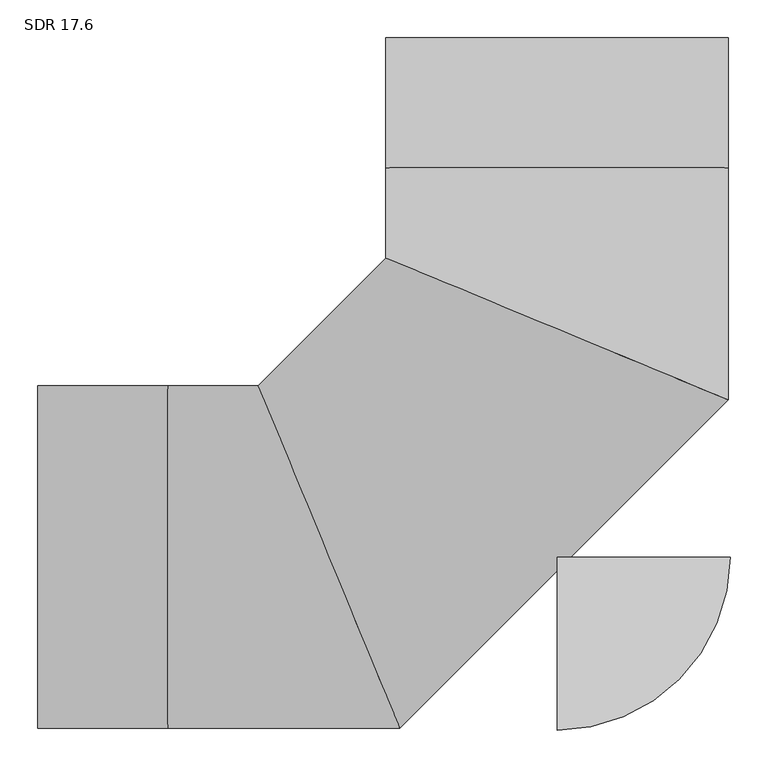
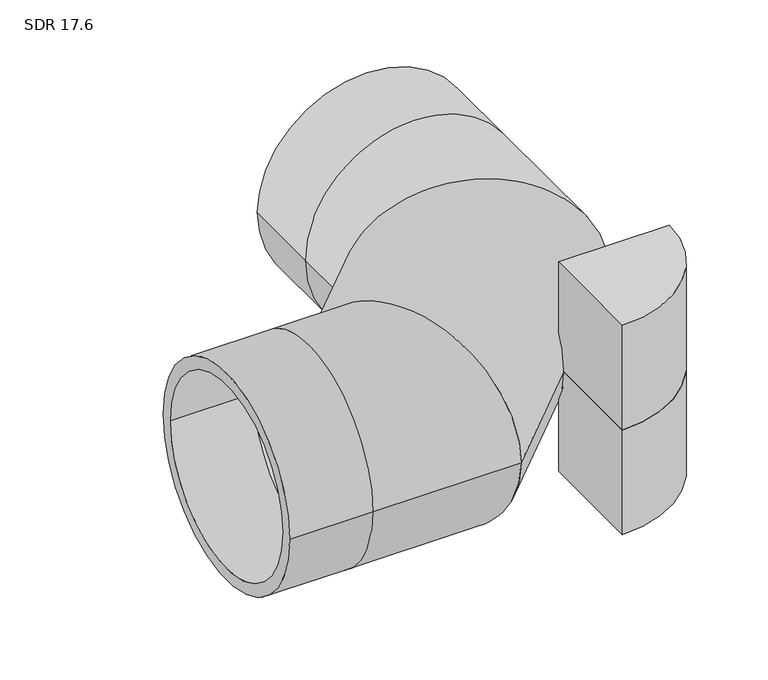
"""IFC4 building model written with IfcOpenShell, lengths in millimetres: pipe fitting geometry, Aquatherm - Elbow Blue BW Segmented : SDR 17.6."""

from ifc_helpers import new_model, si_unit, point, frame, origin, origin_with_axes, origin_2d, place, context, project, spatial, polyline, circle_curve, ellipse_curve, trimmed, segment, composite_curve, outline, extrude, source, transform, mapped, element, save
from ifc_brep_helpers import plane_surface, cylinder_surface, revolved_surface, advanced_brep


def sdr_17_6_db16add6(model_context):
    return source(origin(), model_context, "Body", "SolidModel", [
        extrude(outline(composite_curve([segment(polyline([(0.0, -228.6), (0.0, 0.0), (228.6, 0.0)]), True, "CONTINUOUS"), segment(trimmed(circle_curve(origin_2d(), 228.6), [point((228.6, 0.0))], [point((0.0, -228.6))], False, "CARTESIAN"), True, "CONTINUOUS")], self_intersect=False)), frame((0.0, 0.0, -228.6), z_axis=(0.0, 0.0, 1.0), x_axis=(1.0, 0.0, 0.0)), (0.0, 0.0, 1.0), 228.6),
        extrude(outline(composite_curve([segment(trimmed(circle_curve(origin_2d(), 228.6), [point((228.6, 0.0))], [point((0.0, -228.6))], False, "CARTESIAN"), True, "CONTINUOUS"), segment(polyline([(0.0, -228.6), (0.0, 0.0), (228.6, 0.0)]), True, "CONTINUOUS")], self_intersect=False)), origin_with_axes(), (0.0, 0.0, 1.0), 228.6),
        advanced_brep(
        [(-685.8, -226.06, 0.0), (-685.8, 226.06, 0.0), (-685.8, -200.373644, 0.0), (-685.8, 200.373644, 0.0), (226.06, 685.8, 0.0), (-226.06, 685.8, 0.0), (200.373644, 685.8, 0.0), (-200.373644, 685.8, 0.0), (-514.35, -226.06, 0.0), (-514.35, 226.06, 0.0), (-514.35, -200.373644, 0.0), (-514.35, 200.373644, 0.0), (-207.6621363, -226.06, 0.0), (-394.9363721, 226.06, 0.0), (-218.3017733, -200.373644, 0.0), (-384.2967351, 200.373644, 0.0), (226.06, 207.6621363, 0.0), (-226.06, 394.9363721, 0.0), (200.373644, 218.3017733, 0.0), (-200.373644, 384.2967351, 0.0), (-226.06, 514.35, 0.0), (226.06, 514.35, 0.0), (-200.373644, 514.35, 0.0), (200.373644, 514.35, 0.0)],
        [
            (0, 1, circle_curve(frame((-685.8, 0.0, 0.0), z_axis=(-1.0, 0.0, 0.0), x_axis=(0.0, 1.0, 0.0)), 226.06)),
            (1, 0, circle_curve(frame((-685.8, 0.0, 0.0), z_axis=(-1.0, 0.0, 0.0), x_axis=(0.0, 1.0, 0.0)), 226.06)),
            (2, 3, circle_curve(frame((-685.8, 0.0, 0.0), z_axis=(1.0, 0.0, 0.0), x_axis=(0.0, 1.0, 0.0)), 200.373644)),
            (3, 2, circle_curve(frame((-685.8, 0.0, 0.0), z_axis=(1.0, 0.0, 0.0), x_axis=(0.0, 1.0, 0.0)), 200.373644)),
            (4, 5, circle_curve(frame((0.0, 685.8, 0.0), z_axis=(0.0, 1.0, 0.0), x_axis=(-1.0, 0.0, 0.0)), 226.06)),
            (5, 4, circle_curve(frame((0.0, 685.8, 0.0), z_axis=(0.0, 1.0, 0.0), x_axis=(-1.0, 0.0, 0.0)), 226.06)),
            (6, 7, circle_curve(frame((0.0, 685.8, 0.0), z_axis=(0.0, -1.0, 0.0), x_axis=(-1.0, 0.0, 0.0)), 200.373644)),
            (7, 6, circle_curve(frame((0.0, 685.8, 0.0), z_axis=(0.0, -1.0, 0.0), x_axis=(-1.0, 0.0, 0.0)), 200.373644)),
            (0, 8),
            (8, 9, circle_curve(frame((-514.35, 0.0, 0.0), z_axis=(-1.0, 0.0, 0.0), x_axis=(0.0, 1.0, 0.0)), 226.06)),
            (9, 1),
            (9, 8, circle_curve(frame((-514.35, 0.0, 0.0), z_axis=(-1.0, 0.0, 0.0), x_axis=(0.0, 1.0, 0.0)), 226.06)),
            (2, 10),
            (10, 11, circle_curve(frame((-514.35, 0.0, 0.0), z_axis=(1.0, 0.0, 0.0), x_axis=(0.0, 1.0, 0.0)), 200.373644)),
            (11, 3),
            (11, 10, circle_curve(frame((-514.35, 0.0, 0.0), z_axis=(1.0, 0.0, 0.0), x_axis=(0.0, 1.0, 0.0)), 200.373644)),
            (8, 12),
            (12, 13, ellipse_curve(frame((-301.2992542, 0.0, 0.0), z_axis=(-0.9238795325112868, -0.3826834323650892, 0.0), x_axis=(-0.3826834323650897, 0.9238795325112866, 0.0)), 244.6855808, 226.06)),
            (13, 9),
            (13, 12, ellipse_curve(frame((-301.2992542, 0.0, 0.0), z_axis=(-0.9238795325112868, -0.3826834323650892, 0.0), x_axis=(-0.3826834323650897, 0.9238795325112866, 0.0)), 244.6855808, 226.06)),
            (10, 14),
            (14, 15, ellipse_curve(frame((-301.2992542, 0.0, 0.0), z_axis=(0.9238795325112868, 0.3826834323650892, 0.0), x_axis=(0.3826834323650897, -0.9238795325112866, 0.0)), 216.8828694, 200.373644)),
            (15, 11),
            (15, 14, ellipse_curve(frame((-301.2992542, 0.0, 0.0), z_axis=(0.9238795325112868, 0.3826834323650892, 0.0), x_axis=(0.3826834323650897, -0.9238795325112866, 0.0)), 216.8828694, 200.373644)),
            (12, 16),
            (16, 17, ellipse_curve(frame((0.0, 301.2992542, 0.0), z_axis=(-0.38268343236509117, -0.9238795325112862, 0.0), x_axis=(-0.9238795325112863, 0.3826834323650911, 0.0)), 244.6855808, 226.06)),
            (17, 13),
            (17, 16, ellipse_curve(frame((0.0, 301.2992542, 0.0), z_axis=(-0.38268343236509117, -0.9238795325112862, 0.0), x_axis=(-0.9238795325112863, 0.3826834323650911, 0.0)), 244.6855808, 226.06)),
            (14, 18),
            (18, 19, ellipse_curve(frame((0.0, 301.2992542, 0.0), z_axis=(0.38268343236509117, 0.9238795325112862, 0.0), x_axis=(0.9238795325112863, -0.3826834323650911, 0.0)), 216.8828694, 200.373644)),
            (19, 15),
            (19, 18, ellipse_curve(frame((0.0, 301.2992542, 0.0), z_axis=(0.38268343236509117, 0.9238795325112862, 0.0), x_axis=(0.9238795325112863, -0.3826834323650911, 0.0)), 216.8828694, 200.373644)),
            (20, 21, circle_curve(frame((0.0, 514.35, 0.0), z_axis=(0.0, 1.0, 0.0), x_axis=(-1.0, 0.0, 0.0)), 226.06)),
            (21, 4),
            (5, 20),
            (21, 20, circle_curve(frame((0.0, 514.35, 0.0), z_axis=(0.0, 1.0, 0.0), x_axis=(-1.0, 0.0, 0.0)), 226.06)),
            (22, 23, circle_curve(frame((0.0, 514.35, 0.0), z_axis=(0.0, -1.0, 0.0), x_axis=(-1.0, 0.0, 0.0)), 200.373644)),
            (23, 6),
            (7, 22),
            (23, 22, circle_curve(frame((0.0, 514.35, 0.0), z_axis=(0.0, -1.0, 0.0), x_axis=(-1.0, 0.0, 0.0)), 200.373644)),
            (16, 21),
            (20, 17),
            (18, 23),
            (22, 19),
        ],
        [
            plane_surface(frame((-685.8, 0.0, 0.0), z_axis=(-1.0, 0.0, 0.0), x_axis=(0.0, 0.0, 1.0))),
            plane_surface(frame((0.0, 685.8, 0.0), z_axis=(0.0, 1.0, 0.0), x_axis=(0.0, 0.0, 1.0))),
            cylinder_surface(frame((-685.8, 0.0, 0.0), z_axis=(-1.0, 0.0, 0.0), x_axis=(0.0, 1.0, 0.0)), 226.06),
            revolved_surface(polyline([(-514.35, 200.373644, 0.0), (-685.8, 200.373644, 0.0)]), (-685.8, 0.0, 0.0), (1.0, 0.0, 0.0)),
            cylinder_surface(frame((-514.35, 0.0, 0.0), z_axis=(-1.0, 0.0, 0.0), x_axis=(0.0, 1.0, 0.0)), 226.06),
            revolved_surface(polyline([(-218.30177330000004, 200.373644, 0.0), (-514.35, 200.373644, 0.0)]), (-514.35, 0.0, 0.0), (1.0, 0.0, 0.0)),
            cylinder_surface(frame((-301.2992542, 0.0, 0.0), z_axis=(-0.7071067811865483, -0.7071067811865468, 0.0), x_axis=(-0.7071067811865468, 0.7071067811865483, 0.0)), 226.06),
            revolved_surface(polyline([(-82.99748088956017, 501.6728981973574, 0.0), (-501.6728981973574, 82.99748088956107, 0.0)]), (-301.2992542, 0.0, 0.0), (0.7071067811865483, 0.7071067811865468, 0.0)),
            cylinder_surface(frame((0.0, 514.35, 0.0), z_axis=(0.0, -1.0, 0.0), x_axis=(-1.0, 0.0, 0.0)), 226.06),
            revolved_surface(polyline([(-200.373644, 685.8, 0.0), (-200.373644, 514.35, 0.0)]), (0.0, 514.35, 0.0), (0.0, 1.0, 0.0)),
            cylinder_surface(frame((0.0, 301.2992542, 0.0), z_axis=(0.0, -1.0, 0.0), x_axis=(-1.0, 0.0, 0.0)), 226.06),
            revolved_surface(polyline([(-200.373644, 514.35, 0.0), (-200.373644, 218.3017733, 0.0)]), (0.0, 301.2992542, 0.0), (0.0, 1.0, 0.0)),
        ],
        [
            (0, [[1, 2], [3, 4]]),
            (1, [[5, 6], [7, 8]]),
            (2, [[-1, 9, 10, 11]]),
            (2, [[-2, -11, 12, -9]]),
            (3, [[-3, 13, 14, 15]]),
            (3, [[-4, -15, 16, -13]]),
            (4, [[-10, 17, 18, 19]]),
            (4, [[-12, -19, 20, -17]]),
            (5, [[-14, 21, 22, 23]]),
            (5, [[-16, -23, 24, -21]]),
            (6, [[-18, 25, 26, 27]]),
            (6, [[-20, -27, 28, -25]]),
            (7, [[-22, 29, 30, 31]]),
            (7, [[-24, -31, 32, -29]]),
            (8, [[33, 34, -6, 35]]),
            (8, [[36, -35, -5, -34]]),
            (9, [[37, 38, -8, 39]]),
            (9, [[40, -39, -7, -38]]),
            (10, [[-26, 41, -33, 42]]),
            (10, [[-28, -42, -36, -41]]),
            (11, [[-30, 43, -37, 44]]),
            (11, [[-32, -44, -40, -43]]),
        ],
    ),
    ])


if __name__ == "__main__":
    model = new_model("IFC4")
    model_context = context("Model", 3, world=origin())
    ifc_project = project(units=[si_unit("LENGTHUNIT", "METRE", prefix="MILLI")], contexts=[model_context])
    site = spatial("IfcSite", under=ifc_project)
    building = spatial("IfcBuilding", under=site)
    placement = place(None, origin())
    sdr_17_6_shape = sdr_17_6_db16add6(model_context)
    element("IfcPipeFitting", 1, ObjectType="Aquatherm - Elbow Blue BW Segmented : SDR 17.6", at=placement, inside=building, context=model_context, shape_type="MappedRepresentation", body=[
        mapped(sdr_17_6_shape, transform((0.0, 0.0, 0.0), x_axis=(1.0, 0.0, 0.0), y_axis=(0.0, 1.0, 0.0), z_axis=(0.0, 0.0, 1.0))),
    ])
    save(model, "model.ifc")
